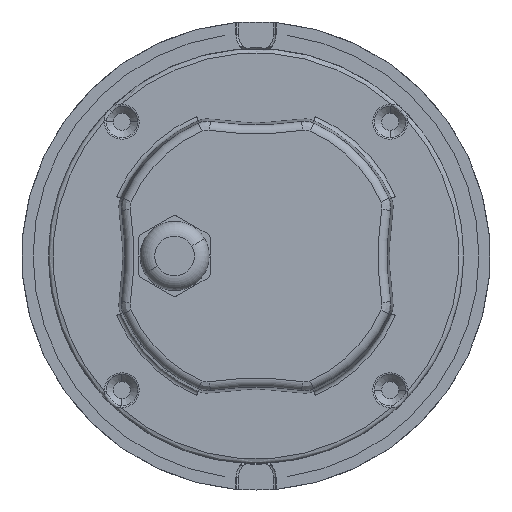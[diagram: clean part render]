
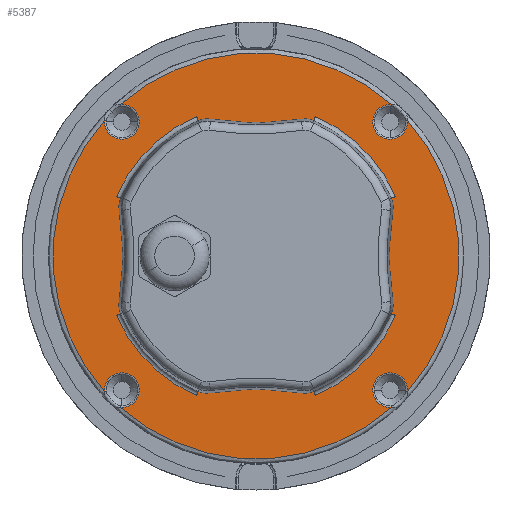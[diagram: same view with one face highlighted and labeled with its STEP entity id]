
A CAD part, front view. The second image highlights one B-rep face of the part: STEP entity #5387.
In plain terms, the highlighted planar face has unit normal (0, -1, 0).
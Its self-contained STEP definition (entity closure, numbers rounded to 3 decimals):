
#3798=CARTESIAN_POINT('',(0.,-5.5,0.));
#3799=DIRECTION('',(0.,1.,0.));
#3800=DIRECTION('',(0.666,0.,-0.746));
#3801=AXIS2_PLACEMENT_3D('',#3798,#3799,#3800);
#3803=CARTESIAN_POINT('',(0.,-5.5,0.));
#3804=DIRECTION('',(0.,1.,0.));
#3805=DIRECTION('',(-0.666,0.,0.746));
#3806=AXIS2_PLACEMENT_3D('',#3803,#3804,#3805);
#4897=CARTESIAN_POINT('',(33.933,-5.5,30.311));
#4909=CARTESIAN_POINT('',(-33.933,-5.5,30.311));
#4933=CARTESIAN_POINT('',(0.,-5.5,0.));
#4934=DIRECTION('',(0.,-1.,0.));
#4935=DIRECTION('',(-0.746,0.,0.666));
#4936=AXIS2_PLACEMENT_3D('',#4933,#4934,#4935);
#4938=CARTESIAN_POINT('',(-30.311,-5.5,-33.933));
#4978=CARTESIAN_POINT('',(-33.933,-5.5,-30.311));
#4980=CARTESIAN_POINT('',(33.933,-5.5,-30.311));
#5020=CARTESIAN_POINT('',(30.311,-5.5,-33.933));
#5022=CARTESIAN_POINT('',(0.,-5.5,0.));
#5023=DIRECTION('',(0.,-1.,0.));
#5024=DIRECTION('',(0.746,0.,-0.666));
#5025=AXIS2_PLACEMENT_3D('',#5022,#5023,#5024);
#5027=CARTESIAN_POINT('',(30.311,-5.5,33.933));
#5073=CARTESIAN_POINT('',(-30.311,-5.5,33.933));
#5085=CARTESIAN_POINT('',(30.052,-5.5,30.052));
#5086=DIRECTION('',(0.,1.,0.));
#5087=DIRECTION('',(0.998,0.,0.067));
#5088=AXIS2_PLACEMENT_3D('',#5085,#5086,#5087);
#5105=CARTESIAN_POINT('',(-30.052,-5.5,30.052));
#5106=DIRECTION('',(0.,1.,0.));
#5107=DIRECTION('',(-0.067,0.,0.998));
#5108=AXIS2_PLACEMENT_3D('',#5105,#5106,#5107);
#5125=CARTESIAN_POINT('',(-30.052,-5.5,-30.052));
#5126=DIRECTION('',(0.,1.,0.));
#5127=DIRECTION('',(-0.998,0.,-0.067));
#5128=AXIS2_PLACEMENT_3D('',#5125,#5126,#5127);
#5140=CARTESIAN_POINT('',(30.052,-5.5,-30.052));
#5141=DIRECTION('',(0.,1.,0.));
#5142=DIRECTION('',(0.067,0.,-0.998));
#5143=AXIS2_PLACEMENT_3D('',#5140,#5141,#5142);
#5290=VERTEX_POINT('',#5027);
#5293=VERTEX_POINT('',#4897);
#5299=VERTEX_POINT('',#4909);
#5302=VERTEX_POINT('',#5073);
#5312=VERTEX_POINT('',#4938);
#5313=VERTEX_POINT('',#4978);
#5319=VERTEX_POINT('',#4980);
#5320=VERTEX_POINT('',#5020);
#5364=CARTESIAN_POINT('',(0.,-5.5,0.));
#5365=DIRECTION('',(0.,1.,0.));
#5366=DIRECTION('',(-1.,0.,0.));
#5367=AXIS2_PLACEMENT_3D('',#5364,#5365,#5366);
#5368=PLANE('',#5367);
#5370=ORIENTED_EDGE('',*,*,#5369,.F.);
#5372=ORIENTED_EDGE('',*,*,#5371,.F.);
#5374=ORIENTED_EDGE('',*,*,#5373,.F.);
#5376=ORIENTED_EDGE('',*,*,#5375,.T.);
#5378=ORIENTED_EDGE('',*,*,#5377,.F.);
#5380=ORIENTED_EDGE('',*,*,#5379,.F.);
#5382=ORIENTED_EDGE('',*,*,#5381,.F.);
#5384=ORIENTED_EDGE('',*,*,#5383,.T.);
#5385=EDGE_LOOP('',(#5370,#5372,#5374,#5376,#5378,#5380,#5382,#5384));
#5386=FACE_OUTER_BOUND('',#5385,.F.);
#5387=ADVANCED_FACE('',(#5386),#5368,.F.);
#3802=CIRCLE('',#3801,45.5);
#3807=CIRCLE('',#3806,45.5);
#4937=CIRCLE('',#4936,45.5);
#5026=CIRCLE('',#5025,45.5);
#5089=CIRCLE('',#5088,3.89);
#5109=CIRCLE('',#5108,3.89);
#5129=CIRCLE('',#5128,3.89);
#5144=CIRCLE('',#5143,3.89);
#5369=EDGE_CURVE('',#5293,#5290,#5089,.T.);
#5371=EDGE_CURVE('',#5319,#5293,#5026,.T.);
#5373=EDGE_CURVE('',#5320,#5319,#5144,.T.);
#5375=EDGE_CURVE('',#5320,#5312,#3802,.T.);
#5377=EDGE_CURVE('',#5313,#5312,#5129,.T.);
#5379=EDGE_CURVE('',#5299,#5313,#4937,.T.);
#5381=EDGE_CURVE('',#5302,#5299,#5109,.T.);
#5383=EDGE_CURVE('',#5302,#5290,#3807,.T.);
